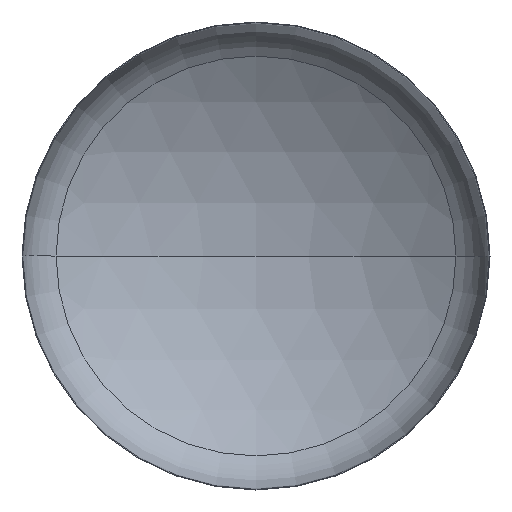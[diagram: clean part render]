
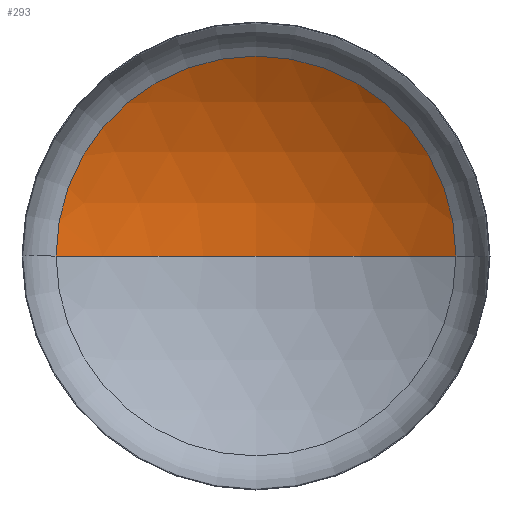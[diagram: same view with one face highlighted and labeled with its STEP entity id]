
A CAD part, front view. The second image highlights one B-rep face of the part: STEP entity #293.
In plain terms, the highlighted spherical face has radius 2400 mm.
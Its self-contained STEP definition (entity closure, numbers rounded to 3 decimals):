
#10 = ORIENTED_EDGE ( 'NONE', *, *, #102, .F. ) ;
#11 = EDGE_LOOP ( 'NONE', ( #10, #121, #138 ) ) ;
#18 = AXIS2_PLACEMENT_3D ( 'NONE', #394, #391, #188 ) ;
#41 = AXIS2_PLACEMENT_3D ( 'NONE', #211, #214, #292 ) ;
#44 = AXIS2_PLACEMENT_3D ( 'NONE', #234, #229, #232 ) ;
#48 = AXIS2_PLACEMENT_3D ( 'NONE', #303, #302, #301 ) ;
#84 = EDGE_CURVE ( 'NONE', #92, #106, #113, .T. ) ;
#88 = EDGE_CURVE ( 'NONE', #98, #92, #194, .T. ) ;
#89 = CIRCLE ( 'NONE', #41, 2400. ) ;
#92 = VERTEX_POINT ( 'NONE', #305 ) ;
#98 = VERTEX_POINT ( 'NONE', #304 ) ;
#102 = EDGE_CURVE ( 'NONE', #98, #106, #89, .T. ) ;
#106 = VERTEX_POINT ( 'NONE', #220 ) ;
#113 = CIRCLE ( 'NONE', #48, 1281.649 ) ;
#121 = ORIENTED_EDGE ( 'NONE', *, *, #88, .T. ) ;
#138 = ORIENTED_EDGE ( 'NONE', *, *, #84, .T. ) ;
#171 = SPHERICAL_SURFACE ( 'NONE', #18, 2400. ) ;
#188 = DIRECTION ( 'NONE',  ( -1., 0., 0. ) ) ;
#194 = CIRCLE ( 'NONE', #44, 2400. ) ;
#211 = CARTESIAN_POINT ( 'NONE',  ( 0., -1620.215, 0. ) ) ;
#214 = DIRECTION ( 'NONE',  ( 0., 0., 1. ) ) ;
#220 = CARTESIAN_POINT ( 'NONE',  ( -1281.649, 408.917, 0. ) ) ;
#229 = DIRECTION ( 'NONE',  ( 0., 0., -1. ) ) ;
#232 = DIRECTION ( 'NONE',  ( -1., 0., 0. ) ) ;
#234 = CARTESIAN_POINT ( 'NONE',  ( 0., -1620.215, 0. ) ) ;
#236 = FACE_OUTER_BOUND ( 'NONE', #11, .T. ) ;
#292 = DIRECTION ( 'NONE',  ( 1., 0., 0. ) ) ;
#293 = ADVANCED_FACE ( 'NONE', ( #236 ), #171, .F. ) ;
#301 = DIRECTION ( 'NONE',  ( 1., 0., 0. ) ) ;
#302 = DIRECTION ( 'NONE',  ( 0., -1., 0. ) ) ;
#303 = CARTESIAN_POINT ( 'NONE',  ( 0., 408.917, 0. ) ) ;
#304 = CARTESIAN_POINT ( 'NONE',  ( 0., 779.785, 0. ) ) ;
#305 = CARTESIAN_POINT ( 'NONE',  ( 1281.649, 408.917, 0. ) ) ;
#391 = DIRECTION ( 'NONE',  ( 0., 0., -1. ) ) ;
#394 = CARTESIAN_POINT ( 'NONE',  ( 0., -1620.215, 0. ) ) ;
